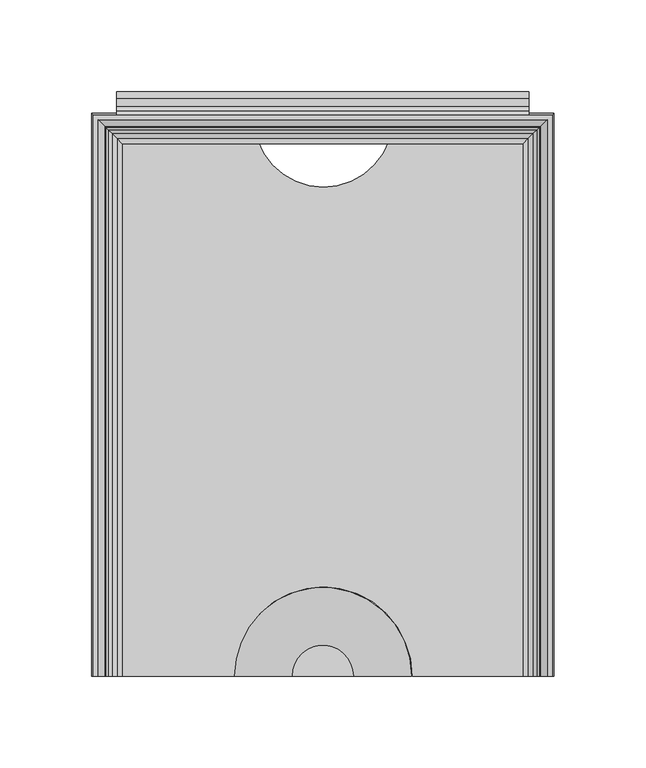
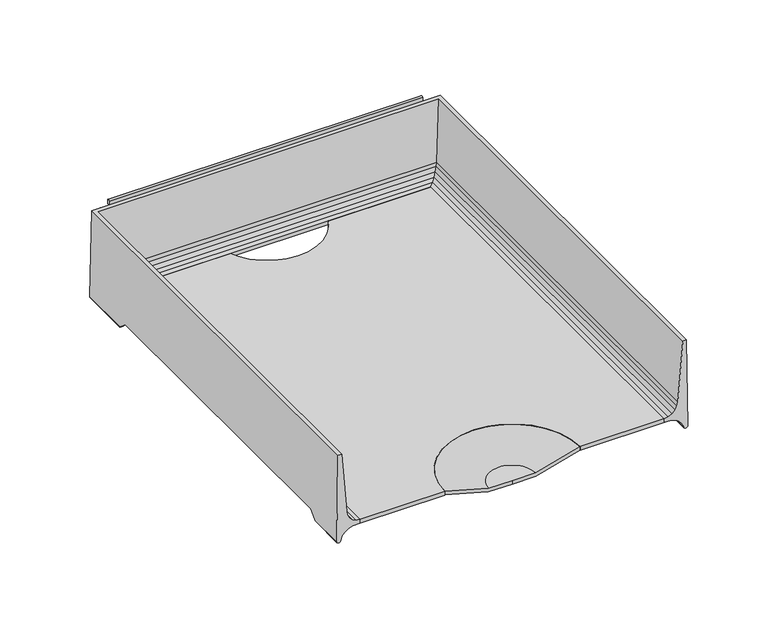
"""IFC4 building model written with IfcOpenShell, lengths in millimetres: furniture geometry."""

import ifcopenshell
import ifcopenshell.guid

model = None  # the IFC model being written
_history = None  # IfcOwnerHistory: only IFC2X3 demands one
_inside = {}  # id of a spatial element -> (the spatial element, [elements in it])
_under = {}  # id of a project, library or spatial element -> (it, [spatial elements below it])
_declared = {}  # id of a project -> (the project, [libraries it declares])
_typed = {}  # id of a type object -> (the type object, [elements of that type])
_made_of = {}  # id of a material, layer set ... -> (it, [elements and type objects made of it])


def new_model(schema):
    """Start an empty IFC model of exactly this schema.

    Asked for "IFC4X3", IfcOpenShell would pick the latest addendum, in which some entities
    have other attributes; the version numbers below select the first issue.
    IFC2X3 requires an IfcOwnerHistory on every rooted entity: one is made here for all.
    """
    global model, _history
    if schema == "IFC4X3":
        model = ifcopenshell.file(schema_version=(4, 3, 0, 0))
    else:
        model = ifcopenshell.file(schema=schema)
    _inside.clear()
    _under.clear()
    _declared.clear()
    _typed.clear()
    _made_of.clear()
    _history = None
    if model.schema == "IFC2X3":
        org = make("IfcOrganization", Name="unknown")
        user = make(
            "IfcPersonAndOrganization",
            ThePerson=make("IfcPerson", FamilyName="unknown"),
            TheOrganization=org,
        )
        app = make(
            "IfcApplication",
            ApplicationDeveloper=org,
            Version="unknown",
            ApplicationFullName="unknown",
            ApplicationIdentifier="unknown",
        )
        _history = make(
            "IfcOwnerHistory",
            OwningUser=user,
            OwningApplication=app,
            ChangeAction="ADDED",
            CreationDate=0,
        )
    return model


def make(cls, **values):
    """One entity of the class cls with the attributes given. An attribute that is None is left unset."""
    return model.create_entity(
        cls, **{name: value for name, value in values.items() if value is not None}
    )


def rooted(cls, **values):
    """An entity with a GlobalId (a new one), such as an element, a storey or a relation."""
    return make(cls, GlobalId=ifcopenshell.guid.new(), OwnerHistory=_history, **values)


def si_unit(unit_type, name, prefix=None):
    """IfcSIUnit, for example si_unit("LENGTHUNIT", "METRE", prefix="MILLI")."""
    return make("IfcSIUnit", UnitType=unit_type, Prefix=prefix, Name=name)


def assignment(units):
    """IfcUnitAssignment: the units of a project."""
    return None if units is None else make("IfcUnitAssignment", Units=units)


def point(xyz):
    """IfcCartesianPoint."""
    return None if xyz is None else make("IfcCartesianPoint", Coordinates=xyz)


def direction(xyz):
    """IfcDirection."""
    return None if xyz is None else make("IfcDirection", DirectionRatios=xyz)


def frame(location, z_axis=None, x_axis=None):
    """IfcAxis2Placement3D, a coordinate frame: its origin and axes. An axis left out is left unset."""
    return make(
        "IfcAxis2Placement3D",
        Location=point(location),
        Axis=direction(z_axis),
        RefDirection=direction(x_axis),
    )


def frame_2d(location, x_axis=None):
    """IfcAxis2Placement2D, a coordinate frame in the plane: its origin and x axis."""
    return make(
        "IfcAxis2Placement2D", Location=point(location), RefDirection=direction(x_axis)
    )


def origin():
    """The frame at (0, 0, 0) with its axes left unset."""
    return frame((0.0, 0.0, 0.0))


def place(relative_to, where):
    """IfcLocalPlacement: puts the frame where relative to a parent placement (None: the world)."""
    return make(
        "IfcLocalPlacement", PlacementRelTo=relative_to, RelativePlacement=where
    )


def context(
    kind, dimensions, precision=None, world=None, true_north=None, identifier=None
):
    """IfcGeometricRepresentationContext, for example the 3D "Model" context."""
    return make(
        "IfcGeometricRepresentationContext",
        ContextIdentifier=identifier,
        ContextType=kind,
        CoordinateSpaceDimension=dimensions,
        Precision=precision,
        WorldCoordinateSystem=world,
        TrueNorth=true_north,
    )


def project(units=None, contexts=None):
    """IfcProject with its units and contexts."""
    return rooted(
        "IfcProject",
        Name="project",
        RepresentationContexts=contexts,
        UnitsInContext=assignment(units),
    )


def spatial(cls, under=None, at=None, **own):
    """A site, building, storey or space (cls), placed at a placement, below another one or the project."""
    s = rooted(cls, ObjectPlacement=at, **own)
    if under is not None:
        _under.setdefault(under.id(), (under, []))[1].append(s)
    return s


def polyline(points):
    """IfcPolyline through the points."""
    return make("IfcPolyline", Points=[point(p) for p in points])


def circle_curve(where, radius):
    """IfcCircle in the frame where."""
    return make("IfcCircle", Position=where, Radius=radius)


def ellipse_curve(where, semi_axis1, semi_axis2):
    """IfcEllipse in the frame where."""
    return make(
        "IfcEllipse", Position=where, SemiAxis1=semi_axis1, SemiAxis2=semi_axis2
    )


def trimmed(basis, trim1, trim2, sense, master):
    """IfcTrimmedCurve: the piece of a basis curve between two trims."""
    return make(
        "IfcTrimmedCurve",
        BasisCurve=basis,
        Trim1=trim1,
        Trim2=trim2,
        SenseAgreement=sense,
        MasterRepresentation=master,
    )


def segment(curve, same_sense, transition):
    """IfcCompositeCurveSegment."""
    return make(
        "IfcCompositeCurveSegment",
        Transition=transition,
        SameSense=same_sense,
        ParentCurve=curve,
    )


def composite_curve(segments, self_intersect=None):
    """IfcCompositeCurve: segments joined end to end."""
    return make("IfcCompositeCurve", Segments=segments, SelfIntersect=self_intersect)


def outline(outer, holes=None, kind="AREA"):
    """IfcArbitraryClosedProfileDef: a profile drawn as a closed curve; with holes, ...WithVoids."""
    if holes is None:
        return make("IfcArbitraryClosedProfileDef", ProfileType=kind, OuterCurve=outer)
    return make(
        "IfcArbitraryProfileDefWithVoids",
        ProfileType=kind,
        OuterCurve=outer,
        InnerCurves=holes,
    )


def extrude(swept, where, along, depth):
    """IfcExtrudedAreaSolid: the profile swept, set in the frame where, extruded along a direction by depth."""
    return make(
        "IfcExtrudedAreaSolid",
        SweptArea=swept,
        Position=where,
        ExtrudedDirection=direction(along),
        Depth=depth,
    )


def shape(context_of_items, identifier, shape_type, items):
    """IfcShapeRepresentation: the items that make up one representation, for example the "Body"."""
    return make(
        "IfcShapeRepresentation",
        ContextOfItems=context_of_items,
        RepresentationIdentifier=identifier,
        RepresentationType=shape_type,
        Items=items,
    )


def source(mapping_origin, context_of_items, identifier, shape_type, items):
    """IfcRepresentationMap: a shape defined once, which mapped items show again and again."""
    return make(
        "IfcRepresentationMap",
        MappingOrigin=mapping_origin,
        MappedRepresentation=shape(context_of_items, identifier, shape_type, items),
    )


def transform(
    local_origin,
    x_axis=None,
    y_axis=None,
    z_axis=None,
    scale=None,
    scale2=None,
    scale3=None,
    uniform=True,
):
    """IfcCartesianTransformationOperator3D, or its non-uniform kind. x_axis, y_axis, z_axis: its Axis1, 2, 3."""
    if uniform:
        return make(
            "IfcCartesianTransformationOperator3D",
            Axis1=direction(x_axis),
            Axis2=direction(y_axis),
            LocalOrigin=point(local_origin),
            Scale=scale,
            Axis3=direction(z_axis),
        )
    return make(
        "IfcCartesianTransformationOperator3DnonUniform",
        Axis1=direction(x_axis),
        Axis2=direction(y_axis),
        LocalOrigin=point(local_origin),
        Scale=scale,
        Axis3=direction(z_axis),
        Scale2=scale2,
        Scale3=scale3,
    )


def mapped(mapping_source, mapping_target):
    """IfcMappedItem: shows the shape of a source again, moved by a transform."""
    return make(
        "IfcMappedItem", MappingSource=mapping_source, MappingTarget=mapping_target
    )


def made_of(thing, what):
    """Note that an element or type object is made of a material, layer set ...; save() writes the relation."""
    if what is not None:
        _made_of.setdefault(what.id(), (what, []))[1].append(thing)
    return thing


def element(
    cls,
    number,
    at=None,
    inside=None,
    cuts=None,
    type_object=None,
    material=None,
    context=None,
    identifier="Body",
    shape_type=None,
    held_by="IfcProductDefinitionShape",
    body=None,
    shapes=None,
    **own,
):
    """One element of the class cls, such as IfcWall. Its Tag is "e" and its number.

    at: its placement. inside: the storey or other place that contains it. cuts: it is an
    opening in that element (IfcRelVoidsElement). A single representation is given by context,
    identifier, shape_type and body (its items); several are given by shapes. held_by: the class
    of the entity that holds the representations. save() writes the other relations.
    """
    e = rooted(cls, Tag="e%d" % number, ObjectPlacement=at, **own)
    if body is not None:
        shapes = [shape(context, identifier, shape_type, body)]
    if shapes is not None:
        e.Representation = make(held_by, Representations=shapes)
    if inside is not None:
        _inside.setdefault(inside.id(), (inside, []))[1].append(e)
    if cuts is not None:
        rooted(
            "IfcRelVoidsElement", RelatingBuildingElement=cuts, RelatedOpeningElement=e
        )
    if type_object is not None:
        _typed.setdefault(type_object.id(), (type_object, []))[1].append(e)
    return made_of(e, material)


def aggregate(whole, parts):
    """IfcRelAggregates: a whole, such as a stair, and the parts it consists of."""
    return rooted("IfcRelAggregates", RelatingObject=whole, RelatedObjects=parts)


def save(model, path):
    """Write the relations noted so far, then the file.

    IfcRelAggregates (storeys below a building ...), IfcRelContainedInSpatialStructure (elements
    in a storey), IfcRelDefinesByType, IfcRelAssociatesMaterial and IfcRelDeclares: one each for
    every whole, place, type object, material and project.
    """
    for whole, parts in _under.values():
        aggregate(whole, parts)
    for where, things in _inside.values():
        rooted(
            "IfcRelContainedInSpatialStructure",
            RelatedElements=things,
            RelatingStructure=where,
        )
    for kind, things in _typed.values():
        rooted("IfcRelDefinesByType", RelatedObjects=things, RelatingType=kind)
    for what, things in _made_of.values():
        rooted("IfcRelAssociatesMaterial", RelatedObjects=things, RelatingMaterial=what)
    for by, libraries in _declared.values():
        rooted("IfcRelDeclares", RelatingContext=by, RelatedDefinitions=libraries)
    model.write(path)


def plane_surface(at):
    """IfcPlane: the flat surface through the origin of the frame at, square to its z axis."""
    return make("IfcPlane", Position=at)


def cylinder_surface(at, radius):
    """IfcCylindricalSurface: all points at the distance radius from the z axis of the frame at."""
    return make("IfcCylindricalSurface", Position=at, Radius=radius)


def revolved_surface(curve, axis_point, axis_direction):
    """IfcSurfaceOfRevolution: the curve turned about the line through axis_point along axis_direction."""
    return make(
        "IfcSurfaceOfRevolution",
        SweptCurve=make("IfcArbitraryOpenProfileDef", ProfileType="CURVE", Curve=curve),
        AxisPosition=make("IfcAxis1Placement", Location=point(axis_point), Axis=direction(axis_direction)),
    )


def advanced_brep(points, edges, surfaces, faces):
    """IfcAdvancedBrep: a solid bounded by faces that lie on surfaces and meet in shared edges.

    An edge is (start, end): straight between two places in points (the first is 0);
    or (start, end, curve); or (start, end, curve, False) where it runs against its curve.
    A face is (place in surfaces, loops), or (place, loops, False) where it looks against
    its surface's normal. A loop lists edges by number (the first is 1), with a minus sign
    where the edge is run from its end to its start. The first loop is the outer one.
    """
    corners = [point(p) for p in points]
    vertices = [make("IfcVertexPoint", VertexGeometry=c) for c in corners]
    made = []
    for start, end, *more in edges:
        made.append(
            make(
                "IfcEdgeCurve",
                EdgeStart=vertices[start],
                EdgeEnd=vertices[end],
                EdgeGeometry=more[0] if more else make("IfcPolyline", Points=[corners[start], corners[end]]),
                SameSense=more[1] if len(more) > 1 else True,
            )
        )
    hull = []
    for where, loops, *sense in faces:
        bounds = []
        for j, loop in enumerate(loops):
            ring = [make("IfcOrientedEdge", EdgeElement=made[abs(k) - 1], Orientation=k > 0) for k in loop]
            bounds.append(
                make(
                    "IfcFaceOuterBound" if j == 0 else "IfcFaceBound",
                    Bound=make("IfcEdgeLoop", EdgeList=ring),
                    Orientation=True,
                )
            )
        hull.append(make("IfcAdvancedFace", Bounds=bounds, FaceSurface=surfaces[where], SameSense=sense[0] if sense else True))
    return make("IfcAdvancedBrep", Outer=make("IfcClosedShell", CfsFaces=hull))


def furniture_ba537c3b(model_context):
    return source(origin(), model_context, "Body", "SolidModel", [
        advanced_brep(
        [(126.0820502, -154.0206082, 1026.8007489), (125.1325529, -154.0206082, 1092.2001914), (122.4547921, -154.0206082, 1092.2001914), (118.8379747, -154.0206082, 1047.4131003), (118.4123648, -154.0206082, 1044.6796052), (117.0774354, -154.0206082, 1041.9785664), (114.9656457, -154.0206082, 1039.8296015), (112.28832, -154.0206082, 1038.4477261), (109.3133381, -154.0206082, 1037.9712052), (109.3133381, -154.0206082, 1035.1490971), (114.5666739, -154.0206082, 1034.9560987), (117.605351, -154.0206082, 1033.8997218), (120.2416, -154.0206082, 1032.0558822), (122.2762142, -154.0206082, 1029.5639079), (123.1625518, -154.0206082, 1026.5206655), (126.0820502, -127.6379698, 1026.8007489), (126.0026181, -121.5231874, 1032.271872), (126.0026181, 109.0611937, 1032.271872), (126.0820502, 115.1759816, 1026.8007489), (126.0820502, 153.036442, 1026.8007489), (125.1325529, 152.0869447, 1092.2001914), (-125.1325529, 152.0869447, 1092.2001914), (-125.1325529, -154.0206082, 1092.2001914), (-122.4547921, -154.0206082, 1092.2001914), (-122.4547921, 149.4091839, 1092.2001914), (122.4547921, 149.4091839, 1092.2001914), (118.8379747, 145.7923665, 1047.4131003), (118.4123648, 145.3667566, 1044.6796052), (117.0774354, 144.0318272, 1041.9785664), (114.9656457, 141.9200375, 1039.8296015), (112.28832, 139.2427118, 1038.4477261), (109.3133381, 136.2677299, 1037.9712052), (109.3133381, 136.2677299, 1035.1490971), (114.5666739, 141.5210656, 1034.9560987), (117.605351, 144.5597428, 1033.8997218), (120.2416, 147.1959918, 1032.0558822), (120.2416, 109.3025941, 1032.0558822), (119.9327864, 109.0611937, 1032.271872), (119.9327864, -121.5231874, 1032.271872), (120.2416, -121.7645876, 1032.0558822), (122.2762142, -124.5497344, 1029.5639079), (122.2762142, 149.230606, 1029.5639079), (122.2762142, 112.0877435, 1029.5639079), (123.1625518, -127.9510041, 1026.5206655), (123.1625518, 150.1169436, 1026.5206655), (123.1625518, 115.4890162, 1026.5206655), (-126.0820502, 153.036442, 1026.8007489), (-118.8379747, 145.7923665, 1047.4131003), (-118.4123648, 145.3667566, 1044.6796052), (-117.0774354, 144.0318272, 1041.9785664), (-114.9656457, 141.9200375, 1039.8296015), (-112.28832, 139.2427118, 1038.4477261), (-109.3133381, 136.2677299, 1037.9712052), (-109.3133381, 136.2677299, 1035.1490971), (-114.5666739, 141.5210656, 1034.9560987), (-117.605351, 144.5597428, 1033.8997218), (-120.2416, 147.1959918, 1032.0558822), (-122.2762142, 149.230606, 1029.5639079), (-123.1625518, 150.1169436, 1026.5206655), (-126.0820502, -154.0206082, 1026.8007489), (-123.1625518, -154.0206082, 1026.5206655), (-122.2762142, -154.0206082, 1029.5639079), (-120.2416, -154.0206082, 1032.0558822), (-117.605351, -154.0206082, 1033.8997218), (-114.5666739, -154.0206082, 1034.9560987), (-109.3133381, -154.0206082, 1035.1490971), (-109.3133381, -154.0206082, 1037.9712052), (-112.28832, -154.0206082, 1038.4477261), (-114.9656457, -154.0206082, 1039.8296015), (-117.0774354, -154.0206082, 1041.9785664), (-118.4123648, -154.0206082, 1044.6796052), (-118.8379747, -154.0206082, 1047.4131003), (-126.0820502, 115.1759816, 1026.8007489), (-126.0026181, 109.0611937, 1032.271872), (-126.0026181, -121.5231874, 1032.271872), (-126.0820502, -127.6379698, 1026.8007489), (-120.2416, -121.7645876, 1032.0558822), (-119.9327864, -121.5231874, 1032.271872), (-119.9327864, 109.0611937, 1032.271872), (-120.2416, 109.3025941, 1032.0558822), (-122.2762142, 112.0877435, 1029.5639079), (-122.2762142, -124.5497344, 1029.5639079), (-123.1625518, 115.4890162, 1026.5206655), (-123.1625518, -127.9510041, 1026.5206655)],
        [
            (0, 1),
            (1, 2),
            (2, 3),
            (3, 4),
            (4, 5),
            (5, 6),
            (6, 7),
            (7, 8),
            (8, 9),
            (9, 10),
            (10, 11),
            (11, 12),
            (12, 13),
            (13, 14),
            (14, 0, circle_curve(frame((124.5859452, -154.0206082, 1027.0396685), z_axis=(0.0, -1.0, 0.0), x_axis=(-1.0, 0.0, 0.0)), 1.515062)),
            (0, 15),
            (15, 16),
            (16, 17),
            (17, 18),
            (18, 19),
            (19, 20),
            (20, 1),
            (20, 21),
            (21, 22),
            (22, 23),
            (23, 24),
            (24, 25),
            (25, 2),
            (25, 26),
            (26, 3),
            (26, 27),
            (27, 4),
            (27, 28),
            (28, 5),
            (28, 29),
            (29, 6),
            (29, 30),
            (30, 7),
            (30, 31),
            (31, 8),
            (31, 32),
            (32, 9),
            (32, 33),
            (33, 10),
            (33, 34),
            (34, 11),
            (34, 35),
            (35, 36),
            (36, 37),
            (37, 38),
            (38, 39),
            (39, 12),
            (39, 40),
            (40, 13),
            (35, 41),
            (41, 42),
            (42, 36),
            (40, 43),
            (43, 14),
            (41, 44),
            (44, 45),
            (45, 42),
            (43, 15, ellipse_curve(frame((124.5859452, -127.3709422, 1027.0396685), z_axis=(0.0, -0.6667949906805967, 0.7452411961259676), x_axis=(0.0, -0.7452411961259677, -0.6667949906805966)), 2.2721556, 1.515062)),
            (44, 19, ellipse_curve(frame((124.5859452, 151.540337, 1027.0396685), z_axis=(0.7071067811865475, -0.7071067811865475, 0.0), x_axis=(-0.7071067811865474, -0.7071067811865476, 0.0)), 2.1426212, 1.515062)),
            (18, 45, ellipse_curve(frame((124.5859452, 114.9089538, 1027.0396685), z_axis=(0.0, 0.6667946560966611, 0.7452414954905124), x_axis=(0.0, -0.7452414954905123, 0.6667946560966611)), 2.2721567, 1.515062)),
            (19, 46),
            (46, 21),
            (24, 47),
            (47, 26),
            (47, 48),
            (48, 27),
            (48, 49),
            (49, 28),
            (49, 50),
            (50, 29),
            (50, 51),
            (51, 30),
            (51, 52),
            (52, 31),
            (52, 53),
            (53, 32),
            (53, 54),
            (54, 33),
            (54, 55),
            (55, 34),
            (55, 56),
            (56, 35),
            (56, 57),
            (57, 41),
            (57, 58),
            (58, 44),
            (58, 46, ellipse_curve(frame((-124.5859452, 151.540337, 1027.0396685), z_axis=(0.7071067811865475, 0.7071067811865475, 0.0), x_axis=(0.7071067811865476, -0.7071067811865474, 0.0)), 2.1426212, 1.515062)),
            (22, 59),
            (59, 60, circle_curve(frame((-124.5859452, -154.0206082, 1027.0396685), z_axis=(0.0, -1.0, 0.0), x_axis=(1.0, 0.0, 0.0)), 1.515062)),
            (60, 61),
            (61, 62),
            (62, 63),
            (63, 64),
            (64, 65),
            (65, 66),
            (66, 67),
            (67, 68),
            (68, 69),
            (69, 70),
            (70, 71),
            (71, 23),
            (46, 72),
            (72, 73),
            (73, 74),
            (74, 75),
            (75, 59),
            (71, 47),
            (70, 48),
            (69, 49),
            (68, 50),
            (67, 51),
            (66, 52),
            (65, 53),
            (64, 54),
            (63, 55),
            (62, 76),
            (76, 77),
            (77, 78),
            (78, 79),
            (79, 56),
            (79, 80),
            (80, 57),
            (61, 81),
            (81, 76),
            (80, 82),
            (82, 58),
            (60, 83),
            (83, 81),
            (82, 72, ellipse_curve(frame((-124.5859452, 114.9089538, 1027.0396685), z_axis=(0.0, 0.6667946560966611, 0.7452414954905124), x_axis=(0.0, 0.7452414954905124, -0.6667946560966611)), 2.2721567, 1.515062)),
            (75, 83, ellipse_curve(frame((-124.5859452, -127.3709422, 1027.0396685), z_axis=(0.0, -0.6667949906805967, 0.7452411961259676), x_axis=(0.0, 0.7452411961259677, 0.6667949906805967)), 2.2721556, 1.515062)),
            (38, 16),
            (74, 77),
            (37, 17),
            (73, 78),
        ],
        [
            plane_surface(frame((127.0, -154.0206082, 1025.525), z_axis=(0.0, -1.0, 0.0), x_axis=(0.0, 0.0, 1.0))),
            plane_surface(frame((126.0820502, -154.0206082, 1026.8007489), z_axis=(0.9998946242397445, 0.0, 0.014516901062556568), x_axis=(0.0, 1.0, 0.0))),
            plane_surface(frame((125.1325529, -154.0206082, 1092.2001914), z_axis=(0.0, 0.0, 1.0), x_axis=(0.0, 1.0, 0.0))),
            plane_surface(frame((122.4547921, -154.0206082, 1092.2001914), z_axis=(-0.9967551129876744, 0.0, 0.08049375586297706), x_axis=(0.0, 1.0, 0.0))),
            plane_surface(frame((118.8379747, -154.0206082, 1047.4131003), z_axis=(-0.9880945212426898, 0.0, 0.15384803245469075), x_axis=(0.0, 1.0, 0.0))),
            plane_surface(frame((118.4123648, -154.0206082, 1044.6796052), z_axis=(-0.8964873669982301, 0.0, 0.44306929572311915), x_axis=(0.0, 1.0, 0.0))),
            plane_surface(frame((117.0774354, -154.0206082, 1041.9785664), z_axis=(-0.7132491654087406, 0.0, 0.7009105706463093), x_axis=(0.0, 1.0, 0.0))),
            plane_surface(frame((114.9656457, -154.0206082, 1039.8296015), z_axis=(-0.45865074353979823, 0.0, 0.8886166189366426), x_axis=(0.0, 1.0, 0.0))),
            plane_surface(frame((112.28832, -154.0206082, 1038.4477261), z_axis=(-0.15816001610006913, 0.0, 0.987413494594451), x_axis=(0.0, 1.0, 0.0))),
            plane_surface(frame((109.3133381, -154.0206082, 1037.9712052), z_axis=(-1.0, 0.0, 0.0), x_axis=(0.0, 1.0, 0.0))),
            plane_surface(frame((109.3133381, -154.0206082, 1035.1490971), z_axis=(-0.036713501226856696, 0.0, -0.9993258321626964), x_axis=(0.0, 1.0, 0.0))),
            plane_surface(frame((114.5666739, -154.0206082, 1034.9560987), z_axis=(-0.3283669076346, 0.0, -0.9445502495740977), x_axis=(0.0, 1.0, 0.0))),
            plane_surface(frame((117.605351, -154.0206082, 1033.8997218), z_axis=(-0.5731421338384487, 0.0, -0.819455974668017), x_axis=(0.0, 1.0, 0.0))),
            plane_surface(frame((120.2416, -154.0206082, 1032.0558822), z_axis=(-0.77460799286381, 0.0, -0.6324416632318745), x_axis=(0.0, 1.0, 0.0))),
            plane_surface(frame((122.2762142, -154.0206082, 1029.5639079), z_axis=(-0.9601080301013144, 0.0, -0.2796293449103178), x_axis=(0.0, 1.0, 0.0))),
            cylinder_surface(frame((124.5859452, -154.0206082, 1027.0396685), z_axis=(0.0, -1.0, 0.0), x_axis=(-1.0, 0.0, 0.0)), 1.515062),
            plane_surface(frame((126.0820502, 153.036442, 1026.8007489), z_axis=(0.0, 0.9998946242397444, 0.014516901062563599), x_axis=(-1.0, 0.0, 0.0))),
            plane_surface(frame((122.4547921, 149.4091839, 1092.2001914), z_axis=(0.0, -0.9967551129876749, 0.08049375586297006), x_axis=(-1.0, 0.0, 0.0))),
            plane_surface(frame((118.8379747, 145.7923665, 1047.4131003), z_axis=(0.0, -0.9880945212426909, 0.15384803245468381), x_axis=(-1.0, 0.0, 0.0))),
            plane_surface(frame((118.4123648, 145.3667566, 1044.6796052), z_axis=(0.0, -0.8964873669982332, 0.4430692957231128), x_axis=(-1.0, 0.0, 0.0))),
            plane_surface(frame((117.0774354, 144.0318272, 1041.9785664), z_axis=(0.0, -0.7132491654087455, 0.7009105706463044), x_axis=(-1.0, 0.0, 0.0))),
            plane_surface(frame((114.9656457, 141.9200375, 1039.8296015), z_axis=(0.0, -0.4586507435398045, 0.8886166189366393), x_axis=(-1.0, 0.0, 0.0))),
            plane_surface(frame((112.28832, 139.2427118, 1038.4477261), z_axis=(0.0, -0.15816001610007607, 0.9874134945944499), x_axis=(-1.0, 0.0, 0.0))),
            plane_surface(frame((109.3133381, 136.2677299, 1037.9712052), z_axis=(0.0, -1.0, 0.0), x_axis=(-1.0, 0.0, 0.0))),
            plane_surface(frame((109.3133381, 136.2677299, 1035.1490971), z_axis=(0.0, -0.03671350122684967, -0.9993258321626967), x_axis=(-1.0, 0.0, 0.0))),
            plane_surface(frame((114.5666739, 141.5210656, 1034.9560987), z_axis=(0.0, -0.32836690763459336, -0.9445502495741), x_axis=(-1.0, 0.0, 0.0))),
            plane_surface(frame((117.605351, 144.5597428, 1033.8997218), z_axis=(0.0, -0.5731421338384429, -0.819455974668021), x_axis=(-1.0, 0.0, 0.0))),
            plane_surface(frame((120.2416, 147.1959918, 1032.0558822), z_axis=(0.0, -0.7746079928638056, -0.6324416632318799), x_axis=(-1.0, 0.0, 0.0))),
            plane_surface(frame((122.2762142, 149.230606, 1029.5639079), z_axis=(0.0, -0.9601080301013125, -0.27962934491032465), x_axis=(-1.0, 0.0, 0.0))),
            cylinder_surface(frame((127.0, 151.540337, 1027.0396685), z_axis=(1.0, 0.0, 0.0), x_axis=(0.0, -1.0, 0.0)), 1.515062),
            plane_surface(frame((-127.0, -154.0206082, 1025.525), z_axis=(0.0, -1.0, 0.0), x_axis=(0.0, 0.0, 1.0))),
            plane_surface(frame((-126.0820502, 153.036442, 1026.8007489), z_axis=(-0.9998946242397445, 0.0, 0.014516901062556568), x_axis=(0.0, -1.0, 0.0))),
            plane_surface(frame((-122.4547921, 149.4091839, 1092.2001914), z_axis=(0.9967551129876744, 0.0, 0.08049375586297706), x_axis=(0.0, -1.0, 0.0))),
            plane_surface(frame((-118.8379747, 145.7923665, 1047.4131003), z_axis=(0.9880945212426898, 0.0, 0.15384803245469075), x_axis=(0.0, -1.0, 0.0))),
            plane_surface(frame((-118.4123648, 145.3667566, 1044.6796052), z_axis=(0.8964873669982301, 0.0, 0.44306929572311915), x_axis=(0.0, -1.0, 0.0))),
            plane_surface(frame((-117.0774354, 144.0318272, 1041.9785664), z_axis=(0.7132491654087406, 0.0, 0.7009105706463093), x_axis=(0.0, -1.0, 0.0))),
            plane_surface(frame((-114.9656457, 141.9200375, 1039.8296015), z_axis=(0.45865074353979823, 0.0, 0.8886166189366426), x_axis=(0.0, -1.0, 0.0))),
            plane_surface(frame((-112.28832, 139.2427118, 1038.4477261), z_axis=(0.15816001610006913, 0.0, 0.987413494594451), x_axis=(0.0, -1.0, 0.0))),
            plane_surface(frame((-109.3133381, 136.2677299, 1037.9712052), z_axis=(1.0, 0.0, 0.0), x_axis=(0.0, -1.0, 0.0))),
            plane_surface(frame((-109.3133381, 136.2677299, 1035.1490971), z_axis=(0.036713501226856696, 0.0, -0.9993258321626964), x_axis=(0.0, -1.0, 0.0))),
            plane_surface(frame((-114.5666739, 141.5210656, 1034.9560987), z_axis=(0.3283669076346, 0.0, -0.9445502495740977), x_axis=(0.0, -1.0, 0.0))),
            plane_surface(frame((-117.605351, 144.5597428, 1033.8997218), z_axis=(0.5731421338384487, 0.0, -0.819455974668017), x_axis=(0.0, -1.0, 0.0))),
            plane_surface(frame((-120.2416, 147.1959918, 1032.0558822), z_axis=(0.77460799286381, 0.0, -0.6324416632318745), x_axis=(0.0, -1.0, 0.0))),
            plane_surface(frame((-122.2762142, 149.230606, 1029.5639079), z_axis=(0.9601080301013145, 0.0, -0.2796293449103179), x_axis=(0.0, -1.0, 0.0))),
            cylinder_surface(frame((-124.5859452, 153.9543918, 1027.0396685), z_axis=(0.0, 1.0, 0.0), x_axis=(1.0, 0.0, 0.0)), 1.515062),
            plane_surface(frame((-127.0, -130.1695728, 1024.5356296), z_axis=(0.0, 0.6667949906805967, -0.7452411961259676), x_axis=(1.0, 0.0, 0.0))),
            plane_surface(frame((-127.0, -121.5231874, 1032.271872), z_axis=(0.0, 0.0, -1.0), x_axis=(1.0, 0.0, 0.0))),
            plane_surface(frame((-127.0, 109.0611937, 1032.271872), z_axis=(0.0, -0.6667946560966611, -0.7452414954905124), x_axis=(1.0, 0.0, 0.0))),
        ],
        [
            (0, [[1, 2, 3, 4, 5, 6, 7, 8, 9, 10, 11, 12, 13, 14, 15]]),
            (1, [[-1, 16, 17, 18, 19, 20, 21, 22]]),
            (2, [[-2, -22, 23, 24, 25, 26, 27, 28]]),
            (3, [[-3, -28, 29, 30]]),
            (4, [[-4, -30, 31, 32]]),
            (5, [[-5, -32, 33, 34]]),
            (6, [[-6, -34, 35, 36]]),
            (7, [[-7, -36, 37, 38]]),
            (8, [[-8, -38, 39, 40]]),
            (9, [[-9, -40, 41, 42]]),
            (10, [[-10, -42, 43, 44]]),
            (11, [[-11, -44, 45, 46]]),
            (12, [[-12, -46, 47, 48, 49, 50, 51, 52]]),
            (13, [[-13, -52, 53, 54]]),
            (13, [[55, 56, 57, -48]]),
            (14, [[-14, -54, 58, 59]]),
            (14, [[60, 61, 62, -56]]),
            (15, [[-15, -59, 63, -16]]),
            (15, [[64, -20, 65, -61]]),
            (16, [[-21, 66, 67, -23]]),
            (17, [[-27, 68, 69, -29]]),
            (18, [[-31, -69, 70, 71]]),
            (19, [[-33, -71, 72, 73]]),
            (20, [[-35, -73, 74, 75]]),
            (21, [[-37, -75, 76, 77]]),
            (22, [[-39, -77, 78, 79]]),
            (23, [[-41, -79, 80, 81]]),
            (24, [[-43, -81, 82, 83]]),
            (25, [[-45, -83, 84, 85]]),
            (26, [[-47, -85, 86, 87]]),
            (27, [[-55, -87, 88, 89]]),
            (28, [[-60, -89, 90, 91]]),
            (29, [[-64, -91, 92, -66]]),
            (30, [[-25, 93, 94, 95, 96, 97, 98, 99, 100, 101, 102, 103, 104, 105, 106]]),
            (31, [[-24, -67, 107, 108, 109, 110, 111, -93]]),
            (32, [[-26, -106, 112, -68]]),
            (33, [[-70, -112, -105, 113]]),
            (34, [[-72, -113, -104, 114]]),
            (35, [[-74, -114, -103, 115]]),
            (36, [[-76, -115, -102, 116]]),
            (37, [[-78, -116, -101, 117]]),
            (38, [[-80, -117, -100, 118]]),
            (39, [[-82, -118, -99, 119]]),
            (40, [[-84, -119, -98, 120]]),
            (41, [[-86, -120, -97, 121, 122, 123, 124, 125]]),
            (42, [[-88, -125, 126, 127]]),
            (42, [[-96, 128, 129, -121]]),
            (43, [[-90, -127, 130, 131]]),
            (43, [[-95, 132, 133, -128]]),
            (44, [[-92, -131, 134, -107]]),
            (44, [[-94, -111, 135, -132]]),
            (45, [[136, -17, -63, -58, -53, -51]]),
            (45, [[137, -122, -129, -133, -135, -110]]),
            (46, [[-136, -50, 138, -18]]),
            (46, [[-137, -109, 139, -123]]),
            (47, [[-138, -49, -57, -62, -65, -19]]),
            (47, [[-139, -108, -134, -130, -126, -124]]),
        ],
    ),
        extrude(outline(composite_curve([segment(polyline([(-109.3647805, 138.2769393), (-35.6610422, 138.2769393)]), True, "CONTINUOUS"), segment(trimmed(circle_curve(frame_2d((0.3369133, 150.6584166)), 38.0677525), [point((-35.6610422, 138.2769393))], [point((36.3348688, 138.2769393))], True, "CARTESIAN"), True, "CONTINUOUS"), segment(polyline([(36.3348688, 138.2769393), (109.6504969, 138.2769393), (109.6504969, -153.9875), (48.9112184, -153.9875)]), True, "CONTINUOUS"), segment(trimmed(circle_curve(frame_2d((0.2842795, -153.9323196)), 48.6269702), [point((48.9112184, -153.9875))], [point((-48.3426595, -153.9875))], True, "CARTESIAN"), True, "CONTINUOUS"), segment(polyline([(-48.3426595, -153.9875), (-109.3647805, -153.9875), (-109.3647805, 138.2769393)]), True, "CONTINUOUS")], self_intersect=False)), frame((0.0, 0.0, 1035.1314677), z_axis=(0.0, 0.0, 1.0), x_axis=(1.0, 0.0, 0.0)), (0.0, 0.0, 1.0), 2.8395461),
        extrude(outline(composite_curve([segment(trimmed(circle_curve(frame_2d((162.7186949, 1076.3707343)), 1.9049988), [point((164.6236937, 1076.3707343))], [point((160.8136962, 1076.3707343))], False, "CARTESIAN"), True, "CONTINUOUS"), segment(polyline([(160.8136962, 1076.3707343), (160.8136962, 1079.7997311), (160.0516969, 1080.5617303), (156.4380325, 1080.5617303), (152.1427596, 1078.2143331), (152.1427596, 1086.7191285), (156.4380325, 1084.3717312), (160.8136928, 1084.3717312)]), True, "CONTINUOUS"), segment(trimmed(circle_curve(frame_2d((160.8136928, 1080.5617303)), 3.8100009), [point((160.8136928, 1084.3717312))], [point((164.6236937, 1080.5617303))], False, "CARTESIAN"), True, "CONTINUOUS"), segment(polyline([(164.6236937, 1080.5617303), (164.6236937, 1076.3707343)]), True, "CONTINUOUS")], self_intersect=False)), frame((-112.5397809, 0.0, 0.0), z_axis=(1.0, 0.0, 0.0), x_axis=(0.0, 1.0, 0.0)), (0.0, 0.0, 1.0), 225.0795617),
        advanced_brep(
        [(-16.8929028, -153.9875, 1029.096875), (-48.4614622, -153.9875, 1038.0045432), (-48.4614622, -153.9875, 1035.4130018), (-16.9249292, -153.9875, 1026.5143704), (0.0, -153.9875, 1026.5143704), (0.0, -153.9875, 1029.096875), (16.8929028, -153.9875, 1029.096875), (16.9249292, -153.9875, 1026.5143704), (48.4614622, -153.9875, 1035.4130018), (48.4614622, -153.9875, 1038.0045432)],
        [
            (0, 1),
            (1, 2),
            (2, 3),
            (3, 4),
            (4, 5),
            (5, 0),
            (6, 5),
            (4, 7),
            (7, 8),
            (8, 9),
            (9, 6),
            (9, 1, circle_curve(frame((0.0, -153.9875, 1038.0045432), z_axis=(0.0, 0.0, 1.0), x_axis=(-1.0, 0.0, 0.0)), 48.4614622)),
            (0, 6, circle_curve(frame((0.0, -153.9875, 1029.096875), z_axis=(0.0, 0.0, -1.0), x_axis=(-1.0, 0.0, 0.0)), 16.8929028)),
            (8, 2, circle_curve(frame((0.0, -153.9875, 1035.4130018), z_axis=(0.0, 0.0, 1.0), x_axis=(-1.0, 0.0, 0.0)), 48.4614622)),
            (7, 3, circle_curve(frame((0.0, -153.9875, 1026.5143704), z_axis=(0.0, 0.0, 1.0), x_axis=(-1.0, 0.0, 0.0)), 16.9249292)),
        ],
        [
            plane_surface(frame((0.0, -153.9875, 1025.525), z_axis=(0.0, -1.0, 0.0), x_axis=(-1.0, 0.0, 0.0))),
            plane_surface(frame((0.0, -153.9875, 1025.525), z_axis=(0.0, -1.0, 0.0), x_axis=(1.0, 0.0, 0.0))),
            revolved_surface(polyline([(-48.4614622, -153.9875, 1038.0045432), (-16.8929028, -153.9875, 1029.096875)]), (0.0, -153.9875, 1025.525), (0.0, 0.0, 1.0)),
            cylinder_surface(frame((0.0, -153.9875, 1025.525), z_axis=(0.0, 0.0, 1.0), x_axis=(-1.0, 0.0, 0.0)), 48.4614622),
            revolved_surface(polyline([(-16.9249292, -153.9875, 1026.5143704), (-48.4614622, -153.9875, 1035.4130018)]), (0.0, -153.9875, 1025.525), (0.0, 0.0, 1.0)),
            plane_surface(frame((0.0, -153.9875, 1026.5143704), z_axis=(0.0, 0.0, -1.0), x_axis=(-1.0, 0.0, 0.0))),
            plane_surface(frame((0.0, -153.9875, 1029.096875), z_axis=(0.0, 0.0, 1.0), x_axis=(-1.0, 0.0, 0.0))),
        ],
        [
            (0, [[1, 2, 3, 4, 5, 6]]),
            (1, [[7, -5, 8, 9, 10, 11]]),
            (2, [[12, -1, 13, -11]]),
            (3, [[14, -2, -12, -10]]),
            (4, [[15, -3, -14, -9]]),
            (5, [[-4, -15, -8]]),
            (6, [[-13, -6, -7]]),
        ],
    ),
        extrude(outline(composite_curve([segment(polyline([(153.9875, 1092.2), (152.1427596, 1092.2), (152.1427596, 1095.0315333)]), True, "CONTINUOUS"), segment(trimmed(circle_curve(frame_2d((153.0651298, 1094.7262665)), 0.9715733), [point((152.1427596, 1095.0315333))], [point((153.9875, 1095.0315333))], False, "CARTESIAN"), True, "CONTINUOUS"), segment(polyline([(153.9875, 1095.0315333), (153.9875, 1092.2)]), True, "CONTINUOUS")], self_intersect=False)), frame((-112.5397809, 0.0, 0.0), z_axis=(1.0, 0.0, 0.0), x_axis=(0.0, 1.0, 0.0)), (0.0, 0.0, 1.0), 225.0795617),
    ])


if __name__ == "__main__":
    model = new_model("IFC4")
    model_context = context("Model", 3, world=origin())
    ifc_project = project(units=[si_unit("LENGTHUNIT", "METRE", prefix="MILLI")], contexts=[model_context])
    site = spatial("IfcSite", under=ifc_project)
    building = spatial("IfcBuilding", under=site)
    placement = place(None, origin())
    furniture_shape = furniture_ba537c3b(model_context)
    element("IfcFurniture", 1, ObjectType="HermanMiller_ThrivePortfolio_Y7216_PaperTray : 3\"H x 12\"D x 10\"W", at=placement, inside=building, context=model_context, shape_type="MappedRepresentation", body=[
        mapped(furniture_shape, transform((0.0, 0.0, 0.0), x_axis=(1.0, 0.0, 0.0), y_axis=(0.0, 1.0, 0.0), z_axis=(0.0, 0.0, 1.0))),
    ])
    save(model, "model.ifc")
